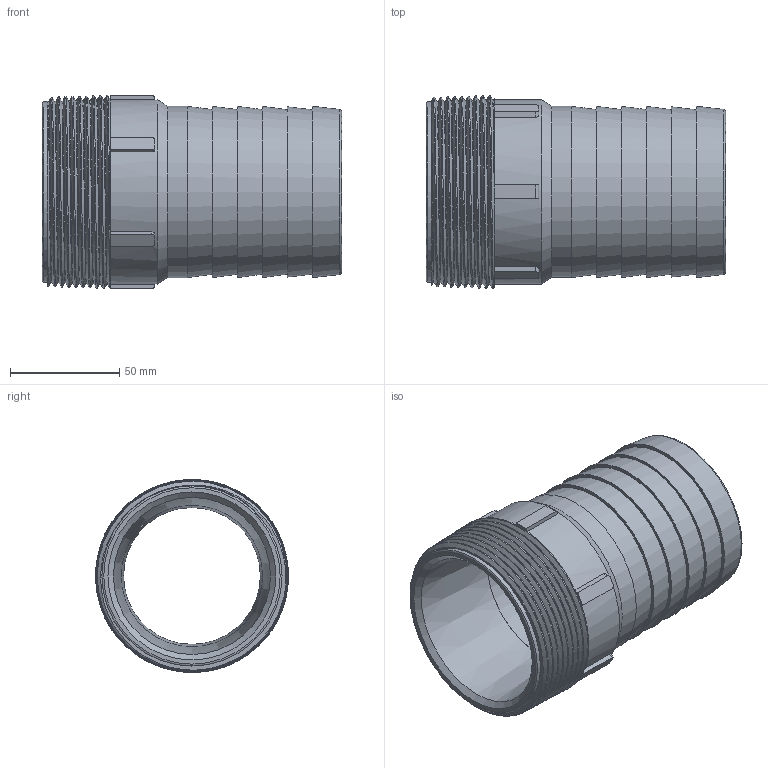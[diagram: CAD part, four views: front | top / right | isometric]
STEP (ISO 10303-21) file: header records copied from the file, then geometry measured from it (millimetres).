
FILE_DESCRIPTION(/* description */ ('Alibre Inc.'),/* implementation_level */ '2;1');
FILE_NAME(/* name */ 'export0',/* time_stamp */ '2016-12-06T14:20:46-05:00',/* author */ (''),/* organization */ (''),/* preprocessor_version */ 'ST-DEVELOPER v14',/* originating_system */ 'Alibre',/* authorisation */ '');
FILE_SCHEMA (('CONFIG_CONTROL_DESIGN'));
Length unit declared in the file: centimetre
Products named in the file (1): ID_2
Bounding box: 136.65 x 88.11 x 88.21 mm (x, y, z)
Volume: 244773.7 mm3; surface area: 72810.3 mm2
Topology: 1 solids, 1 shells, 99 faces, 251 edges, 161 vertices
Faces by surface type: plane 47, cone 32, cylinder 14, torus 3, bspline 3
Full cylindrical faces by diameter (mm): 62.484 x1, 78.206 x1, 82.296 x1, 84.328 x1
Entity records: 40340 total; most frequent: CARTESIAN_POINT 38159, ORIENTED_EDGE 464, DIRECTION 342, EDGE_CURVE 232, VERTEX_POINT 157, AXIS2_PLACEMENT_3D 141, EDGE_LOOP 123, FACE_BOUND 123
